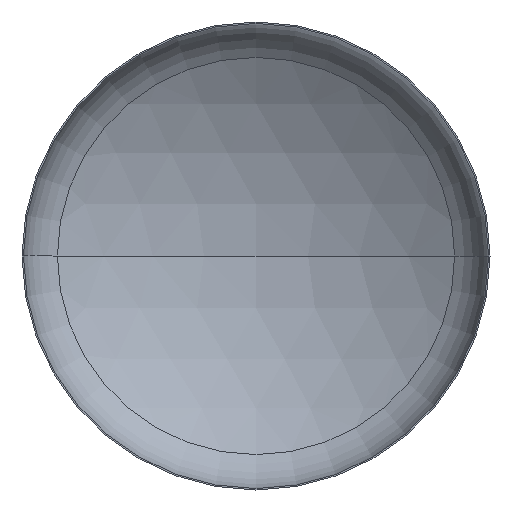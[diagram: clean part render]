
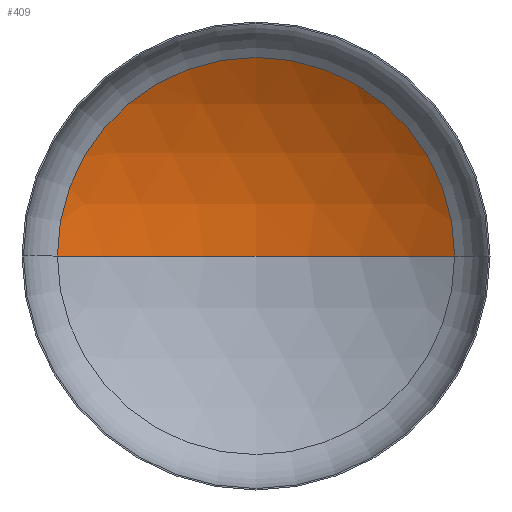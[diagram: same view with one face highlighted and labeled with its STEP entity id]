
A CAD part, front view. The second image highlights one B-rep face of the part: STEP entity #409.
In plain terms, the highlighted spherical face has radius 3600 mm.
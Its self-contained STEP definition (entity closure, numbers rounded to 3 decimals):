
#14 = EDGE_LOOP ( 'NONE', ( #82, #92, #55 ) ) ;
#20 = AXIS2_PLACEMENT_3D ( 'NONE', #58, #95, #104 ) ;
#47 = AXIS2_PLACEMENT_3D ( 'NONE', #385, #206, #160 ) ;
#55 = ORIENTED_EDGE ( 'NONE', *, *, #371, .T. ) ;
#58 = CARTESIAN_POINT ( 'NONE',  ( 0., 634.156, 0. ) ) ;
#61 = CIRCLE ( 'NONE', #47, 3600. ) ;
#67 = VERTEX_POINT ( 'NONE', #225 ) ;
#68 = AXIS2_PLACEMENT_3D ( 'NONE', #133, #151, #140 ) ;
#82 = ORIENTED_EDGE ( 'NONE', *, *, #342, .F. ) ;
#85 = VERTEX_POINT ( 'NONE', #227 ) ;
#92 = ORIENTED_EDGE ( 'NONE', *, *, #324, .T. ) ;
#95 = DIRECTION ( 'NONE',  ( 0., -1., 0. ) ) ;
#104 = DIRECTION ( 'NONE',  ( 1., 0., 0. ) ) ;
#133 = CARTESIAN_POINT ( 'NONE',  ( 0., -2417.589, 0. ) ) ;
#140 = DIRECTION ( 'NONE',  ( -1., 0., 0. ) ) ;
#151 = DIRECTION ( 'NONE',  ( 0., 0., -1. ) ) ;
#160 = DIRECTION ( 'NONE',  ( 1., 0., 0. ) ) ;
#175 = FACE_OUTER_BOUND ( 'NONE', #14, .T. ) ;
#192 = VERTEX_POINT ( 'NONE', #344 ) ;
#195 = CIRCLE ( 'NONE', #68, 3600. ) ;
#206 = DIRECTION ( 'NONE',  ( 0., 0., 1. ) ) ;
#225 = CARTESIAN_POINT ( 'NONE',  ( 1909.673, 634.156, 0. ) ) ;
#227 = CARTESIAN_POINT ( 'NONE',  ( -1909.673, 634.156, 0. ) ) ;
#286 = CARTESIAN_POINT ( 'NONE',  ( 0., -2417.589, 0. ) ) ;
#324 = EDGE_CURVE ( 'NONE', #192, #67, #195, .T. ) ;
#335 = AXIS2_PLACEMENT_3D ( 'NONE', #286, #406, #405 ) ;
#342 = EDGE_CURVE ( 'NONE', #192, #85, #61, .T. ) ;
#344 = CARTESIAN_POINT ( 'NONE',  ( 0., 1182.411, 0. ) ) ;
#351 = SPHERICAL_SURFACE ( 'NONE', #335, 3600. ) ;
#371 = EDGE_CURVE ( 'NONE', #67, #85, #377, .T. ) ;
#377 = CIRCLE ( 'NONE', #20, 1909.673 ) ;
#385 = CARTESIAN_POINT ( 'NONE',  ( 0., -2417.589, 0. ) ) ;
#405 = DIRECTION ( 'NONE',  ( -1., 0., 0. ) ) ;
#406 = DIRECTION ( 'NONE',  ( 0., 0., -1. ) ) ;
#409 = ADVANCED_FACE ( 'NONE', ( #175 ), #351, .F. ) ;
